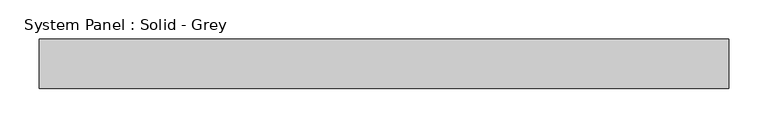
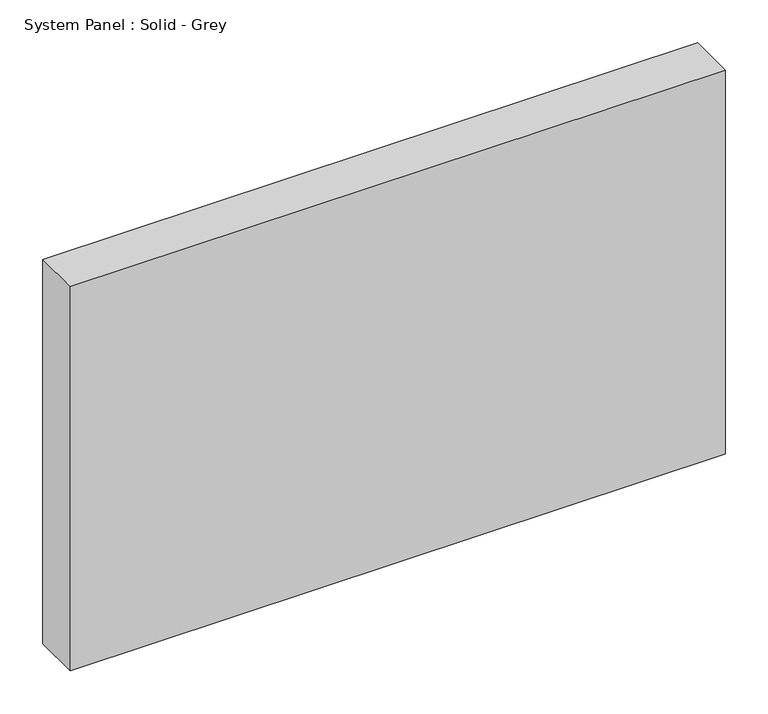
"""IFC4 building model written with IfcOpenShell, lengths in millimetres: plate geometry, System Panel : Solid - Grey."""

import ifcopenshell
import ifcopenshell.guid

model = None  # the IFC model being written
_history = None  # IfcOwnerHistory: only IFC2X3 demands one
_inside = {}  # id of a spatial element -> (the spatial element, [elements in it])
_under = {}  # id of a project, library or spatial element -> (it, [spatial elements below it])
_declared = {}  # id of a project -> (the project, [libraries it declares])
_typed = {}  # id of a type object -> (the type object, [elements of that type])
_made_of = {}  # id of a material, layer set ... -> (it, [elements and type objects made of it])


def new_model(schema):
    """Start an empty IFC model of exactly this schema.

    Asked for "IFC4X3", IfcOpenShell would pick the latest addendum, in which some entities
    have other attributes; the version numbers below select the first issue.
    IFC2X3 requires an IfcOwnerHistory on every rooted entity: one is made here for all.
    """
    global model, _history
    if schema == "IFC4X3":
        model = ifcopenshell.file(schema_version=(4, 3, 0, 0))
    else:
        model = ifcopenshell.file(schema=schema)
    _inside.clear()
    _under.clear()
    _declared.clear()
    _typed.clear()
    _made_of.clear()
    _history = None
    if model.schema == "IFC2X3":
        org = make("IfcOrganization", Name="unknown")
        user = make(
            "IfcPersonAndOrganization",
            ThePerson=make("IfcPerson", FamilyName="unknown"),
            TheOrganization=org,
        )
        app = make(
            "IfcApplication",
            ApplicationDeveloper=org,
            Version="unknown",
            ApplicationFullName="unknown",
            ApplicationIdentifier="unknown",
        )
        _history = make(
            "IfcOwnerHistory",
            OwningUser=user,
            OwningApplication=app,
            ChangeAction="ADDED",
            CreationDate=0,
        )
    return model


def make(cls, **values):
    """One entity of the class cls with the attributes given. An attribute that is None is left unset."""
    return model.create_entity(
        cls, **{name: value for name, value in values.items() if value is not None}
    )


def rooted(cls, **values):
    """An entity with a GlobalId (a new one), such as an element, a storey or a relation."""
    return make(cls, GlobalId=ifcopenshell.guid.new(), OwnerHistory=_history, **values)


def si_unit(unit_type, name, prefix=None):
    """IfcSIUnit, for example si_unit("LENGTHUNIT", "METRE", prefix="MILLI")."""
    return make("IfcSIUnit", UnitType=unit_type, Prefix=prefix, Name=name)


def assignment(units):
    """IfcUnitAssignment: the units of a project."""
    return None if units is None else make("IfcUnitAssignment", Units=units)


def point(xyz):
    """IfcCartesianPoint."""
    return None if xyz is None else make("IfcCartesianPoint", Coordinates=xyz)


def direction(xyz):
    """IfcDirection."""
    return None if xyz is None else make("IfcDirection", DirectionRatios=xyz)


def frame(location, z_axis=None, x_axis=None):
    """IfcAxis2Placement3D, a coordinate frame: its origin and axes. An axis left out is left unset."""
    return make(
        "IfcAxis2Placement3D",
        Location=point(location),
        Axis=direction(z_axis),
        RefDirection=direction(x_axis),
    )


def origin():
    """The frame at (0, 0, 0) with its axes left unset."""
    return frame((0.0, 0.0, 0.0))


def origin_with_axes():
    """The frame at (0, 0, 0) with the z axis (0, 0, 1) and the x axis (1, 0, 0) written out."""
    return frame((0.0, 0.0, 0.0), z_axis=(0.0, 0.0, 1.0), x_axis=(1.0, 0.0, 0.0))


def place(relative_to, where):
    """IfcLocalPlacement: puts the frame where relative to a parent placement (None: the world)."""
    return make(
        "IfcLocalPlacement", PlacementRelTo=relative_to, RelativePlacement=where
    )


def context(
    kind, dimensions, precision=None, world=None, true_north=None, identifier=None
):
    """IfcGeometricRepresentationContext, for example the 3D "Model" context."""
    return make(
        "IfcGeometricRepresentationContext",
        ContextIdentifier=identifier,
        ContextType=kind,
        CoordinateSpaceDimension=dimensions,
        Precision=precision,
        WorldCoordinateSystem=world,
        TrueNorth=true_north,
    )


def project(units=None, contexts=None):
    """IfcProject with its units and contexts."""
    return rooted(
        "IfcProject",
        Name="project",
        RepresentationContexts=contexts,
        UnitsInContext=assignment(units),
    )


def spatial(cls, under=None, at=None, **own):
    """A site, building, storey or space (cls), placed at a placement, below another one or the project."""
    s = rooted(cls, ObjectPlacement=at, **own)
    if under is not None:
        _under.setdefault(under.id(), (under, []))[1].append(s)
    return s


def polyline(points):
    """IfcPolyline through the points."""
    return make("IfcPolyline", Points=[point(p) for p in points])


def outline(outer, holes=None, kind="AREA"):
    """IfcArbitraryClosedProfileDef: a profile drawn as a closed curve; with holes, ...WithVoids."""
    if holes is None:
        return make("IfcArbitraryClosedProfileDef", ProfileType=kind, OuterCurve=outer)
    return make(
        "IfcArbitraryProfileDefWithVoids",
        ProfileType=kind,
        OuterCurve=outer,
        InnerCurves=holes,
    )


def extrude(swept, where, along, depth):
    """IfcExtrudedAreaSolid: the profile swept, set in the frame where, extruded along a direction by depth."""
    return make(
        "IfcExtrudedAreaSolid",
        SweptArea=swept,
        Position=where,
        ExtrudedDirection=direction(along),
        Depth=depth,
    )


def shape(context_of_items, identifier, shape_type, items):
    """IfcShapeRepresentation: the items that make up one representation, for example the "Body"."""
    return make(
        "IfcShapeRepresentation",
        ContextOfItems=context_of_items,
        RepresentationIdentifier=identifier,
        RepresentationType=shape_type,
        Items=items,
    )


def source(mapping_origin, context_of_items, identifier, shape_type, items):
    """IfcRepresentationMap: a shape defined once, which mapped items show again and again."""
    return make(
        "IfcRepresentationMap",
        MappingOrigin=mapping_origin,
        MappedRepresentation=shape(context_of_items, identifier, shape_type, items),
    )


def transform(
    local_origin,
    x_axis=None,
    y_axis=None,
    z_axis=None,
    scale=None,
    scale2=None,
    scale3=None,
    uniform=True,
):
    """IfcCartesianTransformationOperator3D, or its non-uniform kind. x_axis, y_axis, z_axis: its Axis1, 2, 3."""
    if uniform:
        return make(
            "IfcCartesianTransformationOperator3D",
            Axis1=direction(x_axis),
            Axis2=direction(y_axis),
            LocalOrigin=point(local_origin),
            Scale=scale,
            Axis3=direction(z_axis),
        )
    return make(
        "IfcCartesianTransformationOperator3DnonUniform",
        Axis1=direction(x_axis),
        Axis2=direction(y_axis),
        LocalOrigin=point(local_origin),
        Scale=scale,
        Axis3=direction(z_axis),
        Scale2=scale2,
        Scale3=scale3,
    )


def mapped(mapping_source, mapping_target):
    """IfcMappedItem: shows the shape of a source again, moved by a transform."""
    return make(
        "IfcMappedItem", MappingSource=mapping_source, MappingTarget=mapping_target
    )


def made_of(thing, what):
    """Note that an element or type object is made of a material, layer set ...; save() writes the relation."""
    if what is not None:
        _made_of.setdefault(what.id(), (what, []))[1].append(thing)
    return thing


def element(
    cls,
    number,
    at=None,
    inside=None,
    cuts=None,
    type_object=None,
    material=None,
    context=None,
    identifier="Body",
    shape_type=None,
    held_by="IfcProductDefinitionShape",
    body=None,
    shapes=None,
    **own,
):
    """One element of the class cls, such as IfcWall. Its Tag is "e" and its number.

    at: its placement. inside: the storey or other place that contains it. cuts: it is an
    opening in that element (IfcRelVoidsElement). A single representation is given by context,
    identifier, shape_type and body (its items); several are given by shapes. held_by: the class
    of the entity that holds the representations. save() writes the other relations.
    """
    e = rooted(cls, Tag="e%d" % number, ObjectPlacement=at, **own)
    if body is not None:
        shapes = [shape(context, identifier, shape_type, body)]
    if shapes is not None:
        e.Representation = make(held_by, Representations=shapes)
    if inside is not None:
        _inside.setdefault(inside.id(), (inside, []))[1].append(e)
    if cuts is not None:
        rooted(
            "IfcRelVoidsElement", RelatingBuildingElement=cuts, RelatedOpeningElement=e
        )
    if type_object is not None:
        _typed.setdefault(type_object.id(), (type_object, []))[1].append(e)
    return made_of(e, material)


def aggregate(whole, parts):
    """IfcRelAggregates: a whole, such as a stair, and the parts it consists of."""
    return rooted("IfcRelAggregates", RelatingObject=whole, RelatedObjects=parts)


def save(model, path):
    """Write the relations noted so far, then the file.

    IfcRelAggregates (storeys below a building ...), IfcRelContainedInSpatialStructure (elements
    in a storey), IfcRelDefinesByType, IfcRelAssociatesMaterial and IfcRelDeclares: one each for
    every whole, place, type object, material and project.
    """
    for whole, parts in _under.values():
        aggregate(whole, parts)
    for where, things in _inside.values():
        rooted(
            "IfcRelContainedInSpatialStructure",
            RelatedElements=things,
            RelatingStructure=where,
        )
    for kind, things in _typed.values():
        rooted("IfcRelDefinesByType", RelatedObjects=things, RelatingType=kind)
    for what, things in _made_of.values():
        rooted("IfcRelAssociatesMaterial", RelatedObjects=things, RelatingMaterial=what)
    for by, libraries in _declared.values():
        rooted("IfcRelDeclares", RelatingContext=by, RelatedDefinitions=libraries)
    model.write(path)


def system_panel_solid_grey_8fb18e3d(model_context):
    return source(origin(), model_context, "Body", "SweptSolid", [
        extrude(outline(polyline([(440.1829802, -19.05), (-440.1829802, -19.05), (-440.1829802, 44.45), (440.1829802, 44.45), (440.1829802, -19.05)])), origin_with_axes(), (0.0, 0.0, 1.0), 546.1),
    ])


if __name__ == "__main__":
    model = new_model("IFC4")
    model_context = context("Model", 3, world=origin())
    ifc_project = project(units=[si_unit("LENGTHUNIT", "METRE", prefix="MILLI")], contexts=[model_context])
    site = spatial("IfcSite", under=ifc_project)
    building = spatial("IfcBuilding", under=site)
    placement = place(None, origin())
    system_panel_solid_grey_shape = system_panel_solid_grey_8fb18e3d(model_context)
    element("IfcPlate", 1, ObjectType="System Panel : Solid - Grey", at=placement, inside=building, context=model_context, shape_type="MappedRepresentation", body=[
        mapped(system_panel_solid_grey_shape, transform((0.0, 0.0, 0.0), x_axis=(1.0, 0.0, 0.0), y_axis=(0.0, 1.0, 0.0), z_axis=(0.0, 0.0, 1.0))),
    ])
    save(model, "model.ifc")
